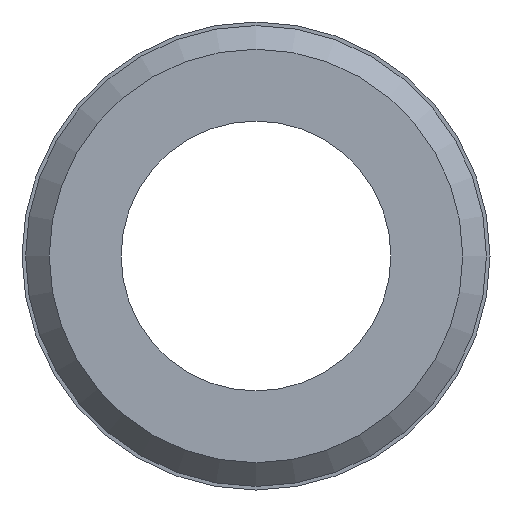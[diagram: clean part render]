
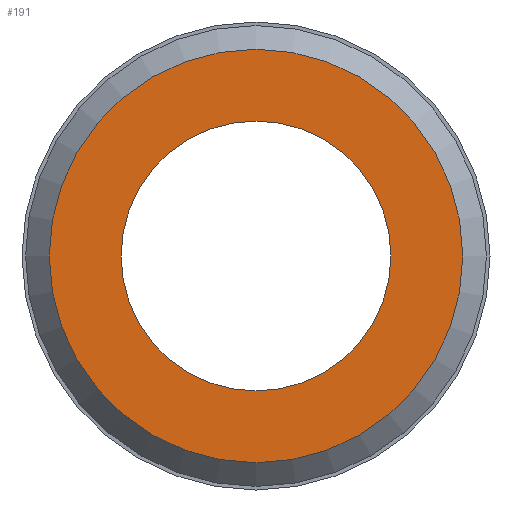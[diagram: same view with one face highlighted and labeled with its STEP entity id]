
A CAD part, front view. The second image highlights one B-rep face of the part: STEP entity #191.
In plain terms, the highlighted planar face has unit normal (0, -1, 0).
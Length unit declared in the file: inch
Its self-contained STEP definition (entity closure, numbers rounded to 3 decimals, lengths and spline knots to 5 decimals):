
#17=FACE_BOUND('',#43,.T.);
#21=PLANE('',#220);
#31=FACE_OUTER_BOUND('',#42,.T.);
#42=EDGE_LOOP('',(#144));
#43=EDGE_LOOP('',(#145,#146));
#65=CIRCLE('',#215,0.0835);
#69=CIRCLE('',#221,0.0545);
#70=CIRCLE('',#222,0.0545);
#87=VERTEX_POINT('',#322);
#91=VERTEX_POINT('',#334);
#92=VERTEX_POINT('',#335);
#107=EDGE_CURVE('',#87,#87,#65,.T.);
#113=EDGE_CURVE('',#91,#92,#69,.T.);
#114=EDGE_CURVE('',#92,#91,#70,.T.);
#144=ORIENTED_EDGE('',*,*,#107,.F.);
#145=ORIENTED_EDGE('',*,*,#113,.F.);
#146=ORIENTED_EDGE('',*,*,#114,.F.);
#191=ADVANCED_FACE('',(#31,#17),#21,.T.);
#215=AXIS2_PLACEMENT_3D('',#323,#251,#252);
#220=AXIS2_PLACEMENT_3D('',#333,#263,#264);
#221=AXIS2_PLACEMENT_3D('',#336,#265,#266);
#222=AXIS2_PLACEMENT_3D('',#337,#267,#268);
#251=DIRECTION('center_axis',(0.,1.,0.));
#252=DIRECTION('ref_axis',(0.,0.,1.));
#263=DIRECTION('center_axis',(0.,-1.,0.));
#264=DIRECTION('ref_axis',(0.,0.,-1.));
#265=DIRECTION('center_axis',(0.,-1.,0.));
#266=DIRECTION('ref_axis',(1.,0.,0.));
#267=DIRECTION('center_axis',(0.,-1.,0.));
#268=DIRECTION('ref_axis',(1.,0.,0.));
#322=CARTESIAN_POINT('',(0.,0.,-0.0835));
#323=CARTESIAN_POINT('Origin',(0.,0.,0.));
#333=CARTESIAN_POINT('Origin',(0.,0.,-0.0545));
#334=CARTESIAN_POINT('',(0.,0.,-0.0545));
#335=CARTESIAN_POINT('',(0.,0.,0.0545));
#336=CARTESIAN_POINT('Origin',(0.,0.,0.));
#337=CARTESIAN_POINT('Origin',(0.,0.,0.));
